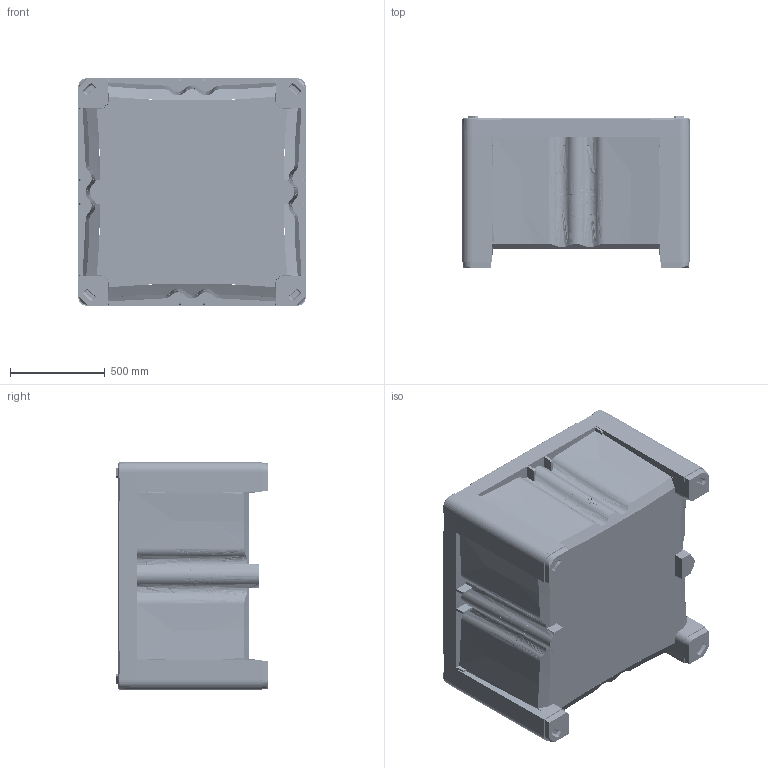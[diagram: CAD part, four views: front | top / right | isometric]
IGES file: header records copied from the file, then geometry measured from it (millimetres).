
Start section: SolidWorks IGES file using analytic representation for surfaces
Global section: file name: C:\ProdVault\Production Data\Hybrid 1212\1112xxxxxxxx 1212-790 Hybrid Block Padfoot.IGS; native system: SolidWorks 2018; preprocessor: SolidWorks 2018; author: Todd Turner; date: 180828.190324; units: millimetre
Bounding box: 1200 x 802.5 x 1200 mm (x, y, z)
Surface area: 10562753.3 mm2 (no closed solid volume)
Topology: 0 solids, 0 shells, 6149 faces, 101207 edges, 101178 vertices
Faces by surface type: bspline 5631, revolution 518
